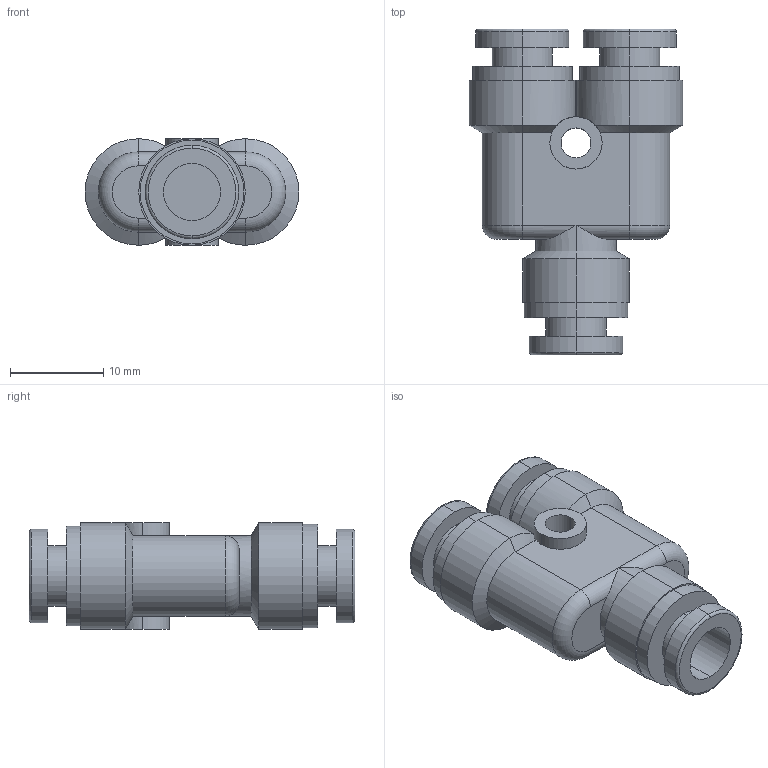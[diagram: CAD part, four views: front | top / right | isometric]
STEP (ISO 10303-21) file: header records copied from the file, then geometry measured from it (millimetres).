
FILE_DESCRIPTION (( 'STEP AP214' ), '1' );
FILE_NAME ('KQG2U06-00.step.step', '2022-11-03T18:01:57', ( '' ), ( '' ), 'SwSTEP 2.0', 'SolidWorks 2022', '' );
FILE_SCHEMA (( 'AUTOMOTIVE_DESIGN' ));
Length unit declared in the file: millimetre
Products named in the file (2): KQG2U06-00.step; KQG2U06-00.step_KQG2 Union Y_06-00
Assembly tree (1 placements, depth 2):
  KQG2U06-00.step
    KQG2U06-00.step_KQG2 Union Y_06-00
Bounding box: 22.91 x 34.9 x 11.41 mm (x, y, z)
Volume: 3890.1 mm3; surface area: 2965.1 mm2
Topology: 1 solids, 1 shells, 88 faces, 192 edges, 118 vertices
Faces by surface type: cylinder 46, plane 26, torus 8, cone 8
Entity records: 2592 total; most frequent: CARTESIAN_POINT 522, DIRECTION 474, ORIENTED_EDGE 384, AXIS2_PLACEMENT_3D 202, EDGE_CURVE 192, VERTEX_POINT 118, CIRCLE 110, EDGE_LOOP 102
